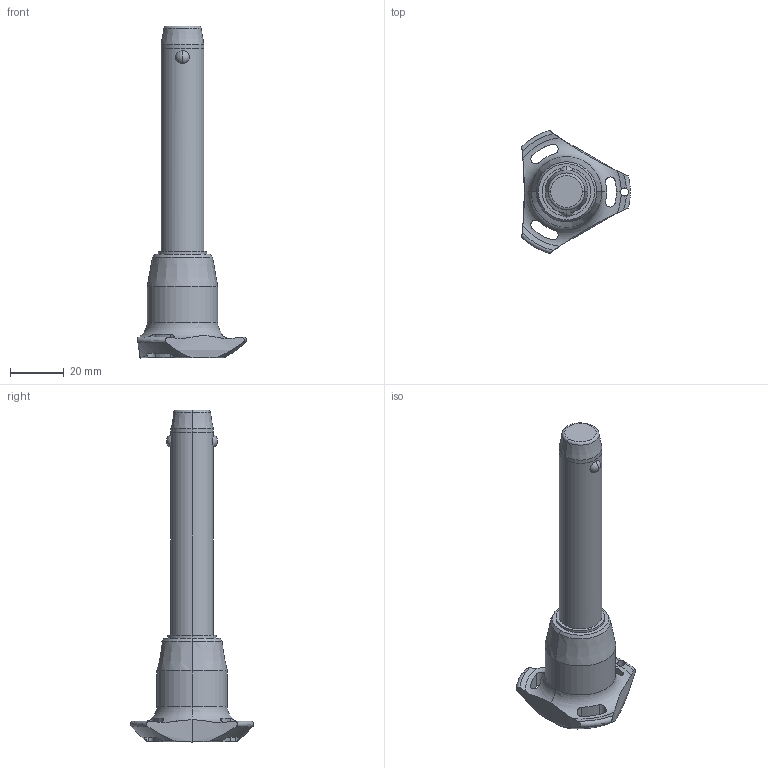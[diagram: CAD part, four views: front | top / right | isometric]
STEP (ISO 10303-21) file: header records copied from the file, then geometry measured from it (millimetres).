
FILE_DESCRIPTION (( 'STEP AP203' ), '1' );
FILE_NAME ('QR1716.M16-070-T.step', '2025-11-13T10:40:04', ( '' ), ( '' ), 'SwSTEP 2.0', 'SolidWorks 2019', '' );
FILE_SCHEMA (( 'CONFIG_CONTROL_DESIGN' ));
Length unit declared in the file: millimetre
Products named in the file (1): QR1716.M16-070-T
Bounding box: 40.5 x 45.88 x 123.7 mm (x, y, z)
Volume: 39170.3 mm3; surface area: 10177.5 mm2
Topology: 1 solids, 1 shells, 68 faces, 184 edges, 117 vertices
Faces by surface type: cylinder 32, cone 14, torus 11, sphere 6, plane 5
Entity records: 2950 total; most frequent: CARTESIAN_POINT 1194, ORIENTED_EDGE 368, DIRECTION 345, EDGE_CURVE 184, AXIS2_PLACEMENT_3D 154, VERTEX_POINT 117, CIRCLE 85, EDGE_LOOP 75
